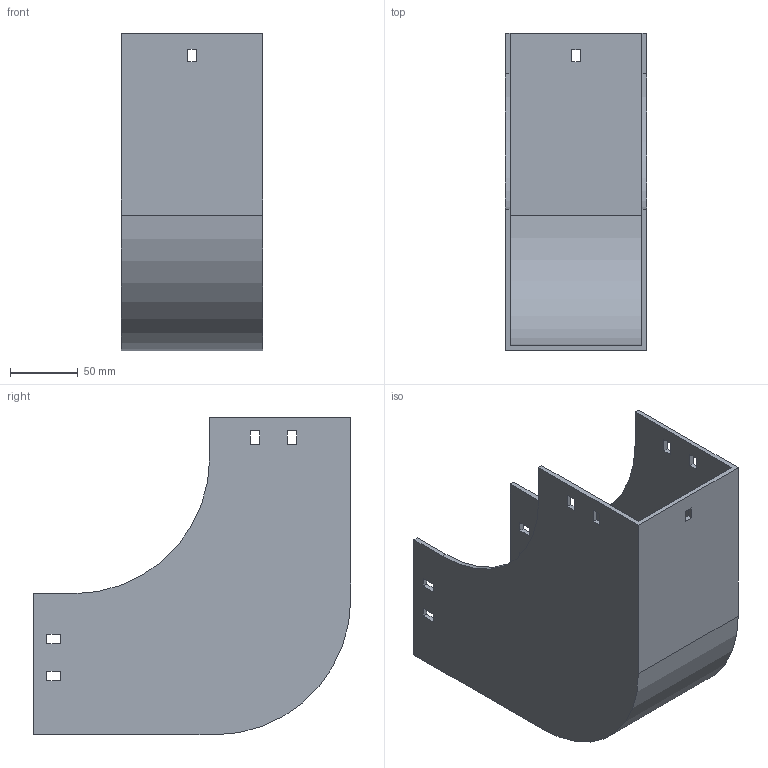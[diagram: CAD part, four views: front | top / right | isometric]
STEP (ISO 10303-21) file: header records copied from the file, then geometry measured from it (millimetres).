
FILE_DESCRIPTION (( 'STEP AP214' ), '1' );
FILE_NAME ('30F1D100.step', '2025-02-21T13:00:59', ( '' ), ( '' ), 'SwSTEP 2.0', 'SolidWorks 2023', '' );
FILE_SCHEMA (( 'AUTOMOTIVE_DESIGN' ));
Length unit declared in the file: millimetre
Products named in the file (1): 30F1D100
Bounding box: 104 x 234 x 234 mm (x, y, z)
Volume: 406003.8 mm3; surface area: 236845 mm2
Topology: 1 solids, 1 shells, 58 faces, 168 edges, 112 vertices
Faces by surface type: plane 54, cylinder 4
Entity records: 1943 total; most frequent: CARTESIAN_POINT 339, ORIENTED_EDGE 336, DIRECTION 294, EDGE_CURVE 168, LINE 160, VECTOR 160, VERTEX_POINT 112, EDGE_LOOP 78
